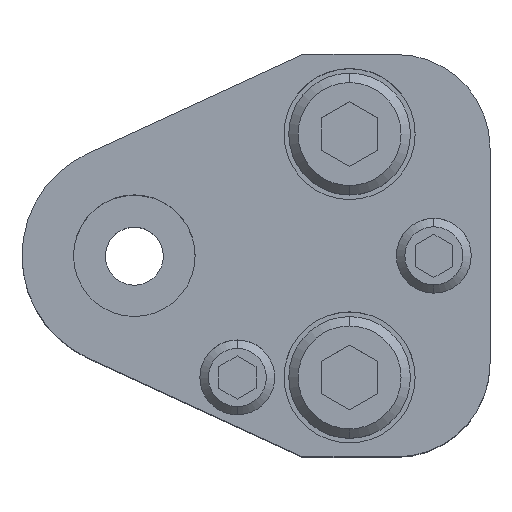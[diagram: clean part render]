
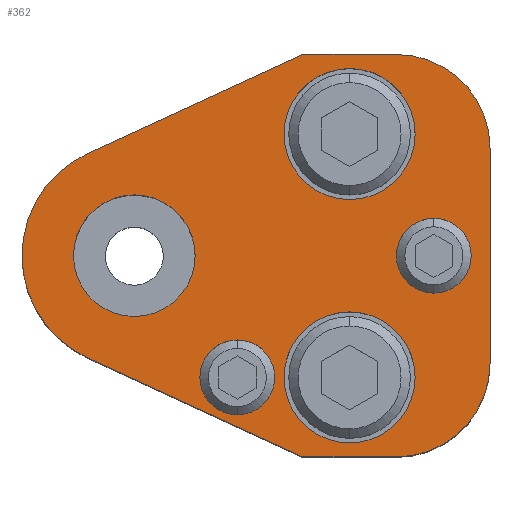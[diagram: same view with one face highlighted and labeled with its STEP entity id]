
A CAD part, top view. The second image highlights one B-rep face of the part: STEP entity #362.
In plain terms, the highlighted planar face has unit normal (0, 0, 1).
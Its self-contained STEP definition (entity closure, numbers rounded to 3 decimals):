
#134=PLANE('',#2717);
#203=FACE_BOUND('',#693,.T.);
#204=FACE_BOUND('',#694,.T.);
#205=FACE_BOUND('',#695,.T.);
#206=FACE_BOUND('',#696,.T.);
#207=FACE_BOUND('',#697,.T.);
#208=FACE_BOUND('',#698,.T.);
#362=ADVANCED_FACE('',(#203,#204,#205,#206,#207,#208),#134,.T.);
#693=EDGE_LOOP('',(#1255,#1256,#1257,#1258,#1259,#1260,#1261,#1262));
#694=EDGE_LOOP('',(#1263,#1264));
#695=EDGE_LOOP('',(#1265,#1266));
#696=EDGE_LOOP('',(#1267,#1268));
#697=EDGE_LOOP('',(#1269,#1270));
#698=EDGE_LOOP('',(#1271,#1272));
#845=CIRCLE('',#2656,12.);
#847=CIRCLE('',#2661,10.);
#849=CIRCLE('',#2665,10.);
#867=CIRCLE('',#2693,7.);
#869=CIRCLE('',#2696,7.);
#871=CIRCLE('',#2700,7.);
#873=CIRCLE('',#2703,7.);
#877=CIRCLE('',#2711,4.);
#878=CIRCLE('',#2712,4.);
#879=CIRCLE('',#2713,4.);
#880=CIRCLE('',#2714,4.);
#881=CIRCLE('',#2715,6.5);
#882=CIRCLE('',#2716,6.5);
#1255=ORIENTED_EDGE('',*,*,#1942,.T.);
#1256=ORIENTED_EDGE('',*,*,#1946,.T.);
#1257=ORIENTED_EDGE('',*,*,#1949,.T.);
#1258=ORIENTED_EDGE('',*,*,#1952,.T.);
#1259=ORIENTED_EDGE('',*,*,#1955,.T.);
#1260=ORIENTED_EDGE('',*,*,#1958,.T.);
#1261=ORIENTED_EDGE('',*,*,#1961,.T.);
#1262=ORIENTED_EDGE('',*,*,#1964,.T.);
#1263=ORIENTED_EDGE('',*,*,#2003,.F.);
#1264=ORIENTED_EDGE('',*,*,#2004,.F.);
#1265=ORIENTED_EDGE('',*,*,#2005,.F.);
#1266=ORIENTED_EDGE('',*,*,#2006,.F.);
#1267=ORIENTED_EDGE('',*,*,#1997,.F.);
#1268=ORIENTED_EDGE('',*,*,#1993,.F.);
#1269=ORIENTED_EDGE('',*,*,#1991,.F.);
#1270=ORIENTED_EDGE('',*,*,#1987,.F.);
#1271=ORIENTED_EDGE('',*,*,#2007,.T.);
#1272=ORIENTED_EDGE('',*,*,#2008,.T.);
#1686=VERTEX_POINT('',#3916);
#1687=VERTEX_POINT('',#3918);
#1690=VERTEX_POINT('',#3925);
#1692=VERTEX_POINT('',#3931);
#1694=VERTEX_POINT('',#3937);
#1696=VERTEX_POINT('',#3943);
#1698=VERTEX_POINT('',#3949);
#1700=VERTEX_POINT('',#3955);
#1717=VERTEX_POINT('',#4008);
#1718=VERTEX_POINT('',#4009);
#1721=VERTEX_POINT('',#4021);
#1722=VERTEX_POINT('',#4022);
#1727=VERTEX_POINT('',#4042);
#1728=VERTEX_POINT('',#4043);
#1729=VERTEX_POINT('',#4046);
#1730=VERTEX_POINT('',#4047);
#1731=VERTEX_POINT('',#4050);
#1732=VERTEX_POINT('',#4051);
#1942=EDGE_CURVE('',#1687,#1686,#845,.T.);
#1946=EDGE_CURVE('',#1686,#1690,#2226,.T.);
#1949=EDGE_CURVE('',#1690,#1692,#2229,.T.);
#1952=EDGE_CURVE('',#1692,#1694,#847,.T.);
#1955=EDGE_CURVE('',#1694,#1696,#2233,.T.);
#1958=EDGE_CURVE('',#1696,#1698,#849,.T.);
#1961=EDGE_CURVE('',#1698,#1700,#2237,.T.);
#1964=EDGE_CURVE('',#1700,#1687,#2240,.T.);
#1987=EDGE_CURVE('',#1717,#1718,#867,.T.);
#1991=EDGE_CURVE('',#1718,#1717,#869,.T.);
#1993=EDGE_CURVE('',#1721,#1722,#871,.T.);
#1997=EDGE_CURVE('',#1722,#1721,#873,.T.);
#2003=EDGE_CURVE('',#1727,#1728,#877,.T.);
#2004=EDGE_CURVE('',#1728,#1727,#878,.T.);
#2005=EDGE_CURVE('',#1729,#1730,#879,.T.);
#2006=EDGE_CURVE('',#1730,#1729,#880,.T.);
#2007=EDGE_CURVE('',#1731,#1732,#881,.T.);
#2008=EDGE_CURVE('',#1732,#1731,#882,.T.);
#2226=LINE('',#3926,#2416);
#2229=LINE('',#3932,#2419);
#2233=LINE('',#3944,#2423);
#2237=LINE('',#3956,#2427);
#2240=LINE('',#3960,#2430);
#2416=VECTOR('',#3113,1.);
#2419=VECTOR('',#3118,1.);
#2423=VECTOR('',#3130,1.);
#2427=VECTOR('',#3142,1.);
#2430=VECTOR('',#3147,1.);
#2656=AXIS2_PLACEMENT_3D('',#3917,#3105,#3106);
#2661=AXIS2_PLACEMENT_3D('',#3938,#3123,#3124);
#2665=AXIS2_PLACEMENT_3D('',#3950,#3135,#3136);
#2693=AXIS2_PLACEMENT_3D('',#4007,#3202,#3203);
#2696=AXIS2_PLACEMENT_3D('',#4016,#3210,#3211);
#2700=AXIS2_PLACEMENT_3D('',#4020,#3218,#3219);
#2703=AXIS2_PLACEMENT_3D('',#4029,#3226,#3227);
#2711=AXIS2_PLACEMENT_3D('',#4041,#3244,#3245);
#2712=AXIS2_PLACEMENT_3D('',#4044,#3246,#3247);
#2713=AXIS2_PLACEMENT_3D('',#4045,#3248,#3249);
#2714=AXIS2_PLACEMENT_3D('',#4048,#3250,#3251);
#2715=AXIS2_PLACEMENT_3D('',#4049,#3252,#3253);
#2716=AXIS2_PLACEMENT_3D('',#4052,#3254,#3255);
#2717=AXIS2_PLACEMENT_3D('',#4053,#3256,#3257);
#3105=DIRECTION('',(0.,0.,1.));
#3106=DIRECTION('',(-0.106,0.994,0.));
#3113=DIRECTION('',(0.908,-0.418,0.));
#3118=DIRECTION('',(1.,0.,0.));
#3123=DIRECTION('',(0.,0.,1.));
#3124=DIRECTION('',(-0.707,0.707,0.));
#3130=DIRECTION('',(0.,1.,0.));
#3135=DIRECTION('',(0.,0.,1.));
#3136=DIRECTION('',(-0.707,-0.707,0.));
#3142=DIRECTION('',(-1.,0.,0.));
#3147=DIRECTION('',(-0.908,-0.418,0.));
#3202=DIRECTION('',(0.,0.,1.));
#3203=DIRECTION('',(-1.,0.,0.));
#3210=DIRECTION('',(0.,0.,1.));
#3211=DIRECTION('',(1.,0.,0.));
#3218=DIRECTION('',(0.,0.,1.));
#3219=DIRECTION('',(-1.,0.,0.));
#3226=DIRECTION('',(0.,0.,1.));
#3227=DIRECTION('',(1.,0.,0.));
#3244=DIRECTION('',(0.,0.,1.));
#3245=DIRECTION('',(1.,0.,0.));
#3246=DIRECTION('',(0.,0.,1.));
#3247=DIRECTION('',(-1.,0.,0.));
#3248=DIRECTION('',(0.,0.,1.));
#3249=DIRECTION('',(1.,0.,0.));
#3250=DIRECTION('',(0.,0.,1.));
#3251=DIRECTION('',(-1.,0.,0.));
#3252=DIRECTION('',(0.,0.,-1.));
#3253=DIRECTION('',(-1.,0.,0.));
#3254=DIRECTION('',(0.,0.,-1.));
#3255=DIRECTION('',(1.,0.,0.));
#3256=DIRECTION('',(0.,0.,1.));
#3257=DIRECTION('',(0.908,0.418,0.));
#3916=CARTESIAN_POINT('',(-5.019,-10.9,35.));
#3917=CARTESIAN_POINT('',(0.,0.,35.));
#3918=CARTESIAN_POINT('',(-5.019,10.9,35.));
#3925=CARTESIAN_POINT('',(18.,-21.5,35.));
#3926=CARTESIAN_POINT('',(18.,-21.5,35.));
#3931=CARTESIAN_POINT('',(28.,-21.5,35.));
#3932=CARTESIAN_POINT('',(28.,-21.5,35.));
#3937=CARTESIAN_POINT('',(38.,-11.5,35.));
#3938=CARTESIAN_POINT('',(28.,-11.5,35.));
#3943=CARTESIAN_POINT('',(38.,11.5,35.));
#3944=CARTESIAN_POINT('',(38.,11.5,35.));
#3949=CARTESIAN_POINT('',(28.,21.5,35.));
#3950=CARTESIAN_POINT('',(28.,11.5,35.));
#3955=CARTESIAN_POINT('',(18.,21.5,35.));
#3956=CARTESIAN_POINT('',(28.,21.5,35.));
#3960=CARTESIAN_POINT('',(18.,21.5,35.));
#4007=CARTESIAN_POINT('',(23.,13.,35.));
#4008=CARTESIAN_POINT('',(23.,6.,35.));
#4009=CARTESIAN_POINT('',(23.,20.,35.));
#4016=CARTESIAN_POINT('',(23.,13.,35.));
#4020=CARTESIAN_POINT('',(23.,-13.,35.));
#4021=CARTESIAN_POINT('',(23.,-20.,35.));
#4022=CARTESIAN_POINT('',(23.,-6.,35.));
#4029=CARTESIAN_POINT('',(23.,-13.,35.));
#4041=CARTESIAN_POINT('',(11.,-13.,35.));
#4042=CARTESIAN_POINT('',(11.,-9.,35.));
#4043=CARTESIAN_POINT('',(11.,-17.,35.));
#4044=CARTESIAN_POINT('',(11.,-13.,35.));
#4045=CARTESIAN_POINT('',(32.,0.,35.));
#4046=CARTESIAN_POINT('',(32.,4.,35.));
#4047=CARTESIAN_POINT('',(32.,-4.,35.));
#4048=CARTESIAN_POINT('',(32.,0.,35.));
#4049=CARTESIAN_POINT('',(0.,0.,35.));
#4050=CARTESIAN_POINT('',(0.,6.5,35.));
#4051=CARTESIAN_POINT('',(0.,-6.5,35.));
#4052=CARTESIAN_POINT('',(0.,0.,35.));
#4053=CARTESIAN_POINT('',(-5.019,10.9,35.));
